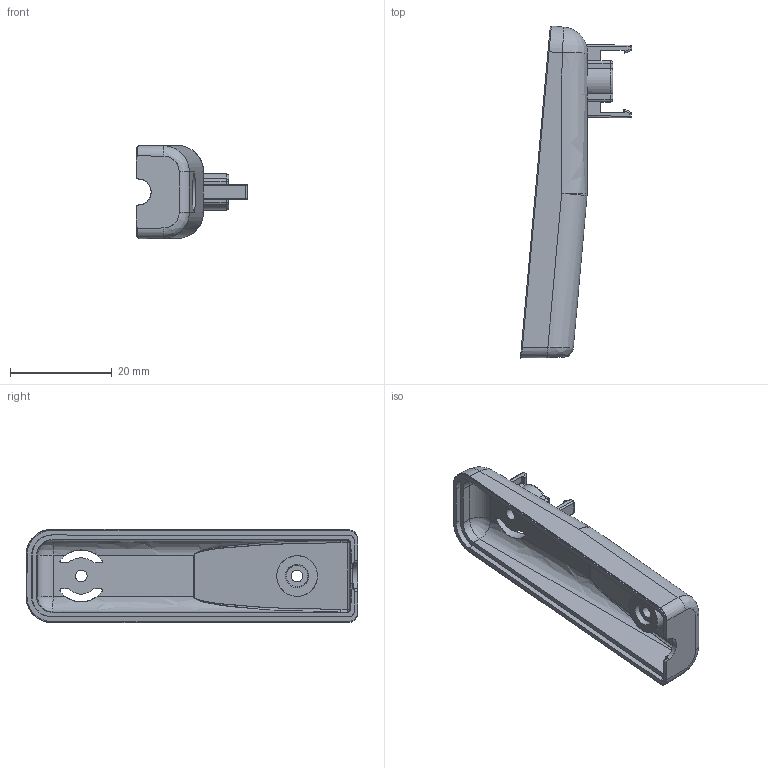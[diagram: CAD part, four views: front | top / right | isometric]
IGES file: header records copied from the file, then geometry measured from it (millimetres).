
Global section: file name: Filename.iges; native system: Open CASCADE 7.5; preprocessor: Open CASCADE IGES processor 7.5; date: 20210414.170848; units: millimetre
Bounding box: 21.87 x 65.32 x 18.4 mm (x, y, z)
Surface area: 5027.5 mm2 (no closed solid volume)
Topology: 0 solids, 0 shells, 187 faces, 1002 edges, 987 vertices
Faces by surface type: revolution 101, plane 78, bspline 8
